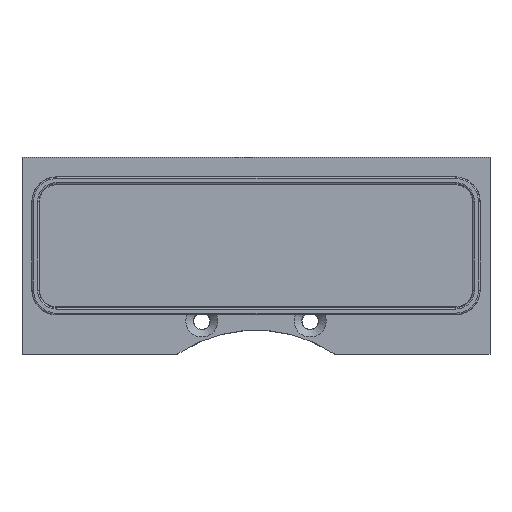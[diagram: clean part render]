
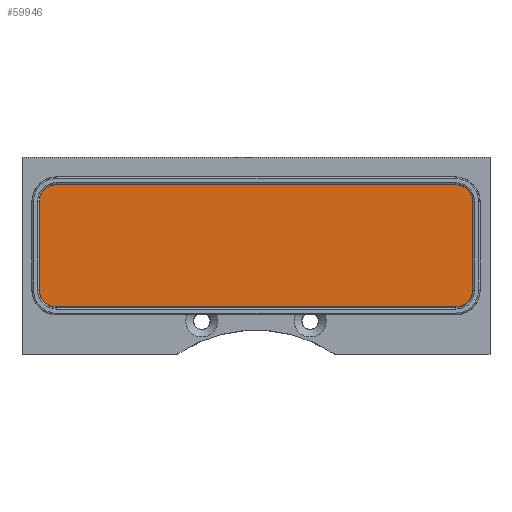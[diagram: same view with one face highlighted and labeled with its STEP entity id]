
A CAD part, top view. The second image highlights one B-rep face of the part: STEP entity #59946.
In plain terms, the highlighted planar face has unit normal (0, 0, 1).
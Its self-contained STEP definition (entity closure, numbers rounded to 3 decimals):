
#58791 = CYLINDRICAL_SURFACE('',#58792,3.4);
#58792 = AXIS2_PLACEMENT_3D('',#58793,#58794,#58795);
#58793 = CARTESIAN_POINT('',(-40.5,9.499,52.35));
#58794 = DIRECTION('',(0.,0.,-1.));
#58795 = DIRECTION('',(-1.,0.,0.));
#58819 = PLANE('',#58820);
#58820 = AXIS2_PLACEMENT_3D('',#58821,#58822,#58823);
#58821 = CARTESIAN_POINT('',(-43.9,12.899,47.601));
#58822 = DIRECTION('',(-1.,0.,0.));
#58823 = DIRECTION('',(0.,-1.,0.));
#58852 = CYLINDRICAL_SURFACE('',#58853,3.4);
#58853 = AXIS2_PLACEMENT_3D('',#58854,#58855,#58856);
#58854 = CARTESIAN_POINT('',(-40.5,-8.501,52.35));
#58855 = DIRECTION('',(0.,0.,-1.));
#58856 = DIRECTION('',(0.,-1.,0.));
#58880 = PLANE('',#58881);
#58881 = AXIS2_PLACEMENT_3D('',#58882,#58883,#58884);
#58882 = CARTESIAN_POINT('',(-43.9,-11.901,47.601));
#58883 = DIRECTION('',(0.,-1.,0.));
#58884 = DIRECTION('',(1.,0.,0.));
#58913 = CYLINDRICAL_SURFACE('',#58914,3.4);
#58914 = AXIS2_PLACEMENT_3D('',#58915,#58916,#58917);
#58915 = CARTESIAN_POINT('',(40.5,-8.501,52.35));
#58916 = DIRECTION('',(0.,0.,-1.));
#58917 = DIRECTION('',(1.,0.,0.));
#58941 = PLANE('',#58942);
#58942 = AXIS2_PLACEMENT_3D('',#58943,#58944,#58945);
#58943 = CARTESIAN_POINT('',(43.9,-11.901,47.601));
#58944 = DIRECTION('',(1.,0.,0.));
#58945 = DIRECTION('',(0.,1.,0.));
#58974 = CYLINDRICAL_SURFACE('',#58975,3.4);
#58975 = AXIS2_PLACEMENT_3D('',#58976,#58977,#58978);
#58976 = CARTESIAN_POINT('',(40.5,9.499,52.35));
#58977 = DIRECTION('',(0.,0.,-1.));
#58978 = DIRECTION('',(0.,1.,0.));
#59000 = PLANE('',#59001);
#59001 = AXIS2_PLACEMENT_3D('',#59002,#59003,#59004);
#59002 = CARTESIAN_POINT('',(43.9,12.899,47.601));
#59003 = DIRECTION('',(0.,1.,0.));
#59004 = DIRECTION('',(-1.,0.,0.));
#59550 = VERTEX_POINT('',#59551);
#59551 = CARTESIAN_POINT('',(-43.9,9.499,48.201));
#59572 = EDGE_CURVE('',#59573,#59550,#59575,.T.);
#59573 = VERTEX_POINT('',#59574);
#59574 = CARTESIAN_POINT('',(-40.5,12.899,48.201));
#59575 = SURFACE_CURVE('',#59576,(#59581,#59588),.PCURVE_S1.);
#59576 = CIRCLE('',#59577,3.4);
#59577 = AXIS2_PLACEMENT_3D('',#59578,#59579,#59580);
#59578 = CARTESIAN_POINT('',(-40.5,9.499,48.201));
#59579 = DIRECTION('',(0.,0.,1.));
#59580 = DIRECTION('',(0.,1.,0.));
#59581 = PCURVE('',#58791,#59582);
#59582 = DEFINITIONAL_REPRESENTATION('',(#59583),#59587);
#59583 = LINE('',#59584,#59585);
#59584 = CARTESIAN_POINT('',(1.571,4.149));
#59585 = VECTOR('',#59586,1.);
#59586 = DIRECTION('',(-1.,0.));
#59587 = ( GEOMETRIC_REPRESENTATION_CONTEXT(2) 
PARAMETRIC_REPRESENTATION_CONTEXT() REPRESENTATION_CONTEXT('2D SPACE',''
  ) );
#59588 = PCURVE('',#59589,#59594);
#59589 = PLANE('',#59590);
#59590 = AXIS2_PLACEMENT_3D('',#59591,#59592,#59593);
#59591 = CARTESIAN_POINT('',(0.,5.539,48.201));
#59592 = DIRECTION('',(0.,0.,1.));
#59593 = DIRECTION('',(1.,0.,0.));
#59594 = DEFINITIONAL_REPRESENTATION('',(#59595),#59599);
#59595 = CIRCLE('',#59596,3.4);
#59596 = AXIS2_PLACEMENT_2D('',#59597,#59598);
#59597 = CARTESIAN_POINT('',(-40.5,3.96));
#59598 = DIRECTION('',(0.,1.));
#59599 = ( GEOMETRIC_REPRESENTATION_CONTEXT(2) 
PARAMETRIC_REPRESENTATION_CONTEXT() REPRESENTATION_CONTEXT('2D SPACE',''
  ) );
#59629 = VERTEX_POINT('',#59630);
#59630 = CARTESIAN_POINT('',(40.5,12.899,48.201));
#59651 = EDGE_CURVE('',#59629,#59573,#59652,.T.);
#59652 = SURFACE_CURVE('',#59653,(#59657,#59664),.PCURVE_S1.);
#59653 = LINE('',#59654,#59655);
#59654 = CARTESIAN_POINT('',(40.5,12.899,48.201));
#59655 = VECTOR('',#59656,1.);
#59656 = DIRECTION('',(-1.,0.,0.));
#59657 = PCURVE('',#59000,#59658);
#59658 = DEFINITIONAL_REPRESENTATION('',(#59659),#59663);
#59659 = LINE('',#59660,#59661);
#59660 = CARTESIAN_POINT('',(3.4,0.6));
#59661 = VECTOR('',#59662,1.);
#59662 = DIRECTION('',(1.,0.));
#59663 = ( GEOMETRIC_REPRESENTATION_CONTEXT(2) 
PARAMETRIC_REPRESENTATION_CONTEXT() REPRESENTATION_CONTEXT('2D SPACE',''
  ) );
#59664 = PCURVE('',#59589,#59665);
#59665 = DEFINITIONAL_REPRESENTATION('',(#59666),#59670);
#59666 = LINE('',#59667,#59668);
#59667 = CARTESIAN_POINT('',(40.5,7.36));
#59668 = VECTOR('',#59669,1.);
#59669 = DIRECTION('',(-1.,0.));
#59670 = ( GEOMETRIC_REPRESENTATION_CONTEXT(2) 
PARAMETRIC_REPRESENTATION_CONTEXT() REPRESENTATION_CONTEXT('2D SPACE',''
  ) );
#59676 = EDGE_CURVE('',#59677,#59629,#59679,.T.);
#59677 = VERTEX_POINT('',#59678);
#59678 = CARTESIAN_POINT('',(43.9,9.499,48.201));
#59679 = SURFACE_CURVE('',#59680,(#59685,#59692),.PCURVE_S1.);
#59680 = CIRCLE('',#59681,3.4);
#59681 = AXIS2_PLACEMENT_3D('',#59682,#59683,#59684);
#59682 = CARTESIAN_POINT('',(40.5,9.499,48.201));
#59683 = DIRECTION('',(0.,0.,1.));
#59684 = DIRECTION('',(1.,0.,0.));
#59685 = PCURVE('',#58974,#59686);
#59686 = DEFINITIONAL_REPRESENTATION('',(#59687),#59691);
#59687 = LINE('',#59688,#59689);
#59688 = CARTESIAN_POINT('',(1.571,4.149));
#59689 = VECTOR('',#59690,1.);
#59690 = DIRECTION('',(-1.,0.));
#59691 = ( GEOMETRIC_REPRESENTATION_CONTEXT(2) 
PARAMETRIC_REPRESENTATION_CONTEXT() REPRESENTATION_CONTEXT('2D SPACE',''
  ) );
#59692 = PCURVE('',#59589,#59693);
#59693 = DEFINITIONAL_REPRESENTATION('',(#59694),#59698);
#59694 = CIRCLE('',#59695,3.4);
#59695 = AXIS2_PLACEMENT_2D('',#59696,#59697);
#59696 = CARTESIAN_POINT('',(40.5,3.96));
#59697 = DIRECTION('',(1.,0.));
#59698 = ( GEOMETRIC_REPRESENTATION_CONTEXT(2) 
PARAMETRIC_REPRESENTATION_CONTEXT() REPRESENTATION_CONTEXT('2D SPACE',''
  ) );
#59726 = VERTEX_POINT('',#59727);
#59727 = CARTESIAN_POINT('',(43.9,-8.501,48.201));
#59748 = EDGE_CURVE('',#59726,#59677,#59749,.T.);
#59749 = SURFACE_CURVE('',#59750,(#59754,#59761),.PCURVE_S1.);
#59750 = LINE('',#59751,#59752);
#59751 = CARTESIAN_POINT('',(43.9,-8.501,48.201));
#59752 = VECTOR('',#59753,1.);
#59753 = DIRECTION('',(0.,1.,0.));
#59754 = PCURVE('',#58941,#59755);
#59755 = DEFINITIONAL_REPRESENTATION('',(#59756),#59760);
#59756 = LINE('',#59757,#59758);
#59757 = CARTESIAN_POINT('',(3.4,0.6));
#59758 = VECTOR('',#59759,1.);
#59759 = DIRECTION('',(1.,0.));
#59760 = ( GEOMETRIC_REPRESENTATION_CONTEXT(2) 
PARAMETRIC_REPRESENTATION_CONTEXT() REPRESENTATION_CONTEXT('2D SPACE',''
  ) );
#59761 = PCURVE('',#59589,#59762);
#59762 = DEFINITIONAL_REPRESENTATION('',(#59763),#59767);
#59763 = LINE('',#59764,#59765);
#59764 = CARTESIAN_POINT('',(43.9,-14.04));
#59765 = VECTOR('',#59766,1.);
#59766 = DIRECTION('',(0.,1.));
#59767 = ( GEOMETRIC_REPRESENTATION_CONTEXT(2) 
PARAMETRIC_REPRESENTATION_CONTEXT() REPRESENTATION_CONTEXT('2D SPACE',''
  ) );
#59775 = EDGE_CURVE('',#59776,#59726,#59778,.T.);
#59776 = VERTEX_POINT('',#59777);
#59777 = CARTESIAN_POINT('',(40.5,-11.901,48.201));
#59778 = SURFACE_CURVE('',#59779,(#59784,#59791),.PCURVE_S1.);
#59779 = CIRCLE('',#59780,3.4);
#59780 = AXIS2_PLACEMENT_3D('',#59781,#59782,#59783);
#59781 = CARTESIAN_POINT('',(40.5,-8.501,48.201));
#59782 = DIRECTION('',(0.,0.,1.));
#59783 = DIRECTION('',(0.,-1.,0.));
#59784 = PCURVE('',#58913,#59785);
#59785 = DEFINITIONAL_REPRESENTATION('',(#59786),#59790);
#59786 = LINE('',#59787,#59788);
#59787 = CARTESIAN_POINT('',(1.571,4.149));
#59788 = VECTOR('',#59789,1.);
#59789 = DIRECTION('',(-1.,0.));
#59790 = ( GEOMETRIC_REPRESENTATION_CONTEXT(2) 
PARAMETRIC_REPRESENTATION_CONTEXT() REPRESENTATION_CONTEXT('2D SPACE',''
  ) );
#59791 = PCURVE('',#59589,#59792);
#59792 = DEFINITIONAL_REPRESENTATION('',(#59793),#59797);
#59793 = CIRCLE('',#59794,3.4);
#59794 = AXIS2_PLACEMENT_2D('',#59795,#59796);
#59795 = CARTESIAN_POINT('',(40.5,-14.04));
#59796 = DIRECTION('',(-0.,-1.));
#59797 = ( GEOMETRIC_REPRESENTATION_CONTEXT(2) 
PARAMETRIC_REPRESENTATION_CONTEXT() REPRESENTATION_CONTEXT('2D SPACE',''
  ) );
#59825 = VERTEX_POINT('',#59826);
#59826 = CARTESIAN_POINT('',(-40.5,-11.901,48.201));
#59847 = EDGE_CURVE('',#59825,#59776,#59848,.T.);
#59848 = SURFACE_CURVE('',#59849,(#59853,#59860),.PCURVE_S1.);
#59849 = LINE('',#59850,#59851);
#59850 = CARTESIAN_POINT('',(-40.5,-11.901,48.201));
#59851 = VECTOR('',#59852,1.);
#59852 = DIRECTION('',(1.,0.,0.));
#59853 = PCURVE('',#58880,#59854);
#59854 = DEFINITIONAL_REPRESENTATION('',(#59855),#59859);
#59855 = LINE('',#59856,#59857);
#59856 = CARTESIAN_POINT('',(3.4,0.6));
#59857 = VECTOR('',#59858,1.);
#59858 = DIRECTION('',(1.,0.));
#59859 = ( GEOMETRIC_REPRESENTATION_CONTEXT(2) 
PARAMETRIC_REPRESENTATION_CONTEXT() REPRESENTATION_CONTEXT('2D SPACE',''
  ) );
#59860 = PCURVE('',#59589,#59861);
#59861 = DEFINITIONAL_REPRESENTATION('',(#59862),#59866);
#59862 = LINE('',#59863,#59864);
#59863 = CARTESIAN_POINT('',(-40.5,-17.44));
#59864 = VECTOR('',#59865,1.);
#59865 = DIRECTION('',(1.,0.));
#59866 = ( GEOMETRIC_REPRESENTATION_CONTEXT(2) 
PARAMETRIC_REPRESENTATION_CONTEXT() REPRESENTATION_CONTEXT('2D SPACE',''
  ) );
#59874 = EDGE_CURVE('',#59875,#59825,#59877,.T.);
#59875 = VERTEX_POINT('',#59876);
#59876 = CARTESIAN_POINT('',(-43.9,-8.501,48.201));
#59877 = SURFACE_CURVE('',#59878,(#59883,#59890),.PCURVE_S1.);
#59878 = CIRCLE('',#59879,3.4);
#59879 = AXIS2_PLACEMENT_3D('',#59880,#59881,#59882);
#59880 = CARTESIAN_POINT('',(-40.5,-8.501,48.201));
#59881 = DIRECTION('',(0.,0.,1.));
#59882 = DIRECTION('',(-1.,0.,0.));
#59883 = PCURVE('',#58852,#59884);
#59884 = DEFINITIONAL_REPRESENTATION('',(#59885),#59889);
#59885 = LINE('',#59886,#59887);
#59886 = CARTESIAN_POINT('',(1.571,4.149));
#59887 = VECTOR('',#59888,1.);
#59888 = DIRECTION('',(-1.,0.));
#59889 = ( GEOMETRIC_REPRESENTATION_CONTEXT(2) 
PARAMETRIC_REPRESENTATION_CONTEXT() REPRESENTATION_CONTEXT('2D SPACE',''
  ) );
#59890 = PCURVE('',#59589,#59891);
#59891 = DEFINITIONAL_REPRESENTATION('',(#59892),#59896);
#59892 = CIRCLE('',#59893,3.4);
#59893 = AXIS2_PLACEMENT_2D('',#59894,#59895);
#59894 = CARTESIAN_POINT('',(-40.5,-14.04));
#59895 = DIRECTION('',(-1.,0.));
#59896 = ( GEOMETRIC_REPRESENTATION_CONTEXT(2) 
PARAMETRIC_REPRESENTATION_CONTEXT() REPRESENTATION_CONTEXT('2D SPACE',''
  ) );
#59924 = EDGE_CURVE('',#59550,#59875,#59925,.T.);
#59925 = SURFACE_CURVE('',#59926,(#59930,#59937),.PCURVE_S1.);
#59926 = LINE('',#59927,#59928);
#59927 = CARTESIAN_POINT('',(-43.9,9.499,48.201));
#59928 = VECTOR('',#59929,1.);
#59929 = DIRECTION('',(0.,-1.,0.));
#59930 = PCURVE('',#58819,#59931);
#59931 = DEFINITIONAL_REPRESENTATION('',(#59932),#59936);
#59932 = LINE('',#59933,#59934);
#59933 = CARTESIAN_POINT('',(3.4,0.6));
#59934 = VECTOR('',#59935,1.);
#59935 = DIRECTION('',(1.,0.));
#59936 = ( GEOMETRIC_REPRESENTATION_CONTEXT(2) 
PARAMETRIC_REPRESENTATION_CONTEXT() REPRESENTATION_CONTEXT('2D SPACE',''
  ) );
#59937 = PCURVE('',#59589,#59938);
#59938 = DEFINITIONAL_REPRESENTATION('',(#59939),#59943);
#59939 = LINE('',#59940,#59941);
#59940 = CARTESIAN_POINT('',(-43.9,3.96));
#59941 = VECTOR('',#59942,1.);
#59942 = DIRECTION('',(-0.,-1.));
#59943 = ( GEOMETRIC_REPRESENTATION_CONTEXT(2) 
PARAMETRIC_REPRESENTATION_CONTEXT() REPRESENTATION_CONTEXT('2D SPACE',''
  ) );
#59946 = ADVANCED_FACE('',(#59947),#59589,.T.);
#59947 = FACE_BOUND('',#59948,.F.);
#59948 = EDGE_LOOP('',(#59949,#59950,#59951,#59952,#59953,#59954,#59955,
    #59956));
#59949 = ORIENTED_EDGE('',*,*,#59572,.F.);
#59950 = ORIENTED_EDGE('',*,*,#59651,.F.);
#59951 = ORIENTED_EDGE('',*,*,#59676,.F.);
#59952 = ORIENTED_EDGE('',*,*,#59748,.F.);
#59953 = ORIENTED_EDGE('',*,*,#59775,.F.);
#59954 = ORIENTED_EDGE('',*,*,#59847,.F.);
#59955 = ORIENTED_EDGE('',*,*,#59874,.F.);
#59956 = ORIENTED_EDGE('',*,*,#59924,.F.);
